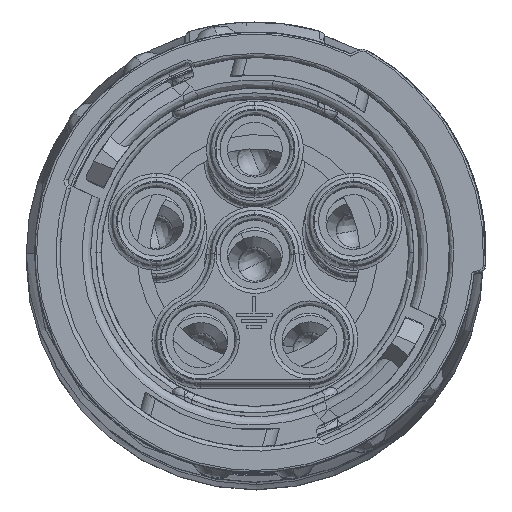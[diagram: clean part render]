
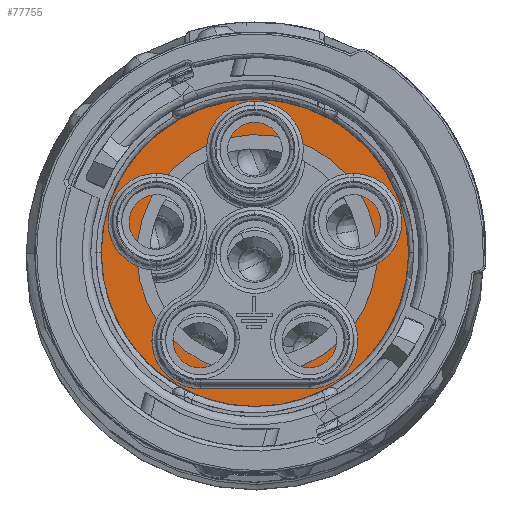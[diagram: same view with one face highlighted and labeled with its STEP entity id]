
A CAD part, top view. The second image highlights one B-rep face of the part: STEP entity #77755.
In plain terms, the highlighted planar face has unit normal (0, 0, -1).
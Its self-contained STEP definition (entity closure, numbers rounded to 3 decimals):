
#3432 = EDGE_CURVE ( 'NONE', #75189, #61674, #65933, .T. ) ;
#3969 = EDGE_LOOP ( 'NONE', ( #27436, #98524 ) ) ;
#3983 = CARTESIAN_POINT ( 'NONE',  ( 7.929, -2.769, -45.788 ) ) ;
#4581 = EDGE_CURVE ( 'NONE', #61674, #75189, #17472, .T. ) ;
#10014 = DIRECTION ( 'NONE',  ( -1., 0., 0. ) ) ;
#10151 = CARTESIAN_POINT ( 'NONE',  ( 2.379, -2.769, -45.788 ) ) ;
#11920 = DIRECTION ( 'NONE',  ( 0., 0., -1. ) ) ;
#14442 = EDGE_LOOP ( 'NONE', ( #19774, #21283 ) ) ;
#16657 = DIRECTION ( 'NONE',  ( -1., 0., 0. ) ) ;
#17076 = AXIS2_PLACEMENT_3D ( 'NONE', #82113, #73762, #10014 ) ;
#17472 = CIRCLE ( 'NONE', #74462, 5.55 ) ;
#19774 = ORIENTED_EDGE ( 'NONE', *, *, #3432, .F. ) ;
#21283 = ORIENTED_EDGE ( 'NONE', *, *, #4581, .F. ) ;
#27297 = FACE_BOUND ( 'NONE', #14442, .T. ) ;
#27436 = ORIENTED_EDGE ( 'NONE', *, *, #95141, .T. ) ;
#34313 = CARTESIAN_POINT ( 'NONE',  ( -3.171, -2.769, -45.788 ) ) ;
#35000 = FACE_OUTER_BOUND ( 'NONE', #3969, .T. ) ;
#39248 = CIRCLE ( 'NONE', #105925, 7.692 ) ;
#43947 = CIRCLE ( 'NONE', #72535, 7.692 ) ;
#53024 = DIRECTION ( 'NONE',  ( -1., 0., 0. ) ) ;
#60723 = DIRECTION ( 'NONE',  ( 0., 0., -1. ) ) ;
#61364 = CARTESIAN_POINT ( 'NONE',  ( 2.379, -2.769, -45.788 ) ) ;
#61674 = VERTEX_POINT ( 'NONE', #3983 ) ;
#65933 = CIRCLE ( 'NONE', #115425, 5.55 ) ;
#67534 = EDGE_CURVE ( 'NONE', #109911, #115136, #43947, .T. ) ;
#72535 = AXIS2_PLACEMENT_3D ( 'NONE', #111387, #85089, #111967 ) ;
#73762 = DIRECTION ( 'NONE',  ( 0., 0., -1. ) ) ;
#74462 = AXIS2_PLACEMENT_3D ( 'NONE', #61364, #106142, #53024 ) ;
#75189 = VERTEX_POINT ( 'NONE', #34313 ) ;
#77755 = ADVANCED_FACE ( 'NONE', ( #35000, #27297 ), #92804, .T. ) ;
#78028 = CARTESIAN_POINT ( 'NONE',  ( 2.379, -2.769, -45.788 ) ) ;
#82113 = CARTESIAN_POINT ( 'NONE',  ( 2.379, -2.769, -45.788 ) ) ;
#85089 = DIRECTION ( 'NONE',  ( 0., 0., -1. ) ) ;
#89545 = CARTESIAN_POINT ( 'NONE',  ( -5.313, -2.769, -45.788 ) ) ;
#92804 = PLANE ( 'NONE',  #17076 ) ;
#95141 = EDGE_CURVE ( 'NONE', #115136, #109911, #39248, .T. ) ;
#98524 = ORIENTED_EDGE ( 'NONE', *, *, #67534, .T. ) ;
#100699 = DIRECTION ( 'NONE',  ( -1., 0., 0. ) ) ;
#101707 = CARTESIAN_POINT ( 'NONE',  ( 10.071, -2.769, -45.788 ) ) ;
#105925 = AXIS2_PLACEMENT_3D ( 'NONE', #78028, #60723, #16657 ) ;
#106142 = DIRECTION ( 'NONE',  ( 0., 0., -1. ) ) ;
#109911 = VERTEX_POINT ( 'NONE', #101707 ) ;
#111387 = CARTESIAN_POINT ( 'NONE',  ( 2.379, -2.769, -45.788 ) ) ;
#111967 = DIRECTION ( 'NONE',  ( -1., 0., 0. ) ) ;
#115136 = VERTEX_POINT ( 'NONE', #89545 ) ;
#115425 = AXIS2_PLACEMENT_3D ( 'NONE', #10151, #11920, #100699 ) ;
